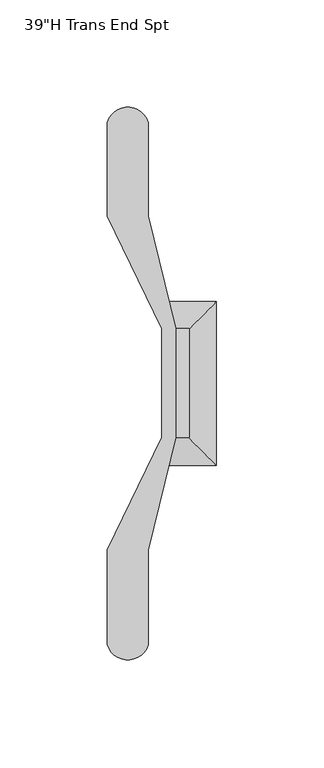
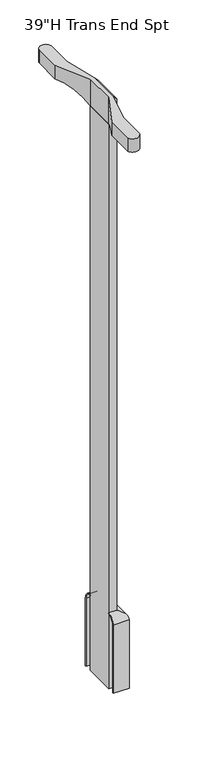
"""IFC4 building model written with IfcOpenShell, lengths in millimetres: furniture geometry."""

from ifc_helpers import new_model, si_unit, frame, origin, place, context, project, spatial, polyline, circle_curve, ellipse_curve, outline, extrude, source, transform, mapped, element, save
from ifc_brep_helpers import plane_surface, cylinder_surface, revolved_surface, advanced_brep


def furniture_0d48e931(model_context):
    return source(origin(), model_context, "Body", "SolidModel", [
        advanced_brep(
        [(1984.8560512, -2410.6387877, 123.825), (1984.8560512, -2410.6387877, 9.525), (1984.8560512, -2412.2262877, 9.525), (1984.8560512, -2412.2262877, 123.825), (1984.8560512, -2423.3387877, 134.9375), (1984.8560512, -2423.3387877, 136.525), (2010.2560512, -2410.6387877, 123.825), (2010.2560512, -2410.6387877, 9.525), (2010.2560512, -2486.8387877, 9.525), (1984.8560512, -2486.8387877, 9.525), (1984.8560512, -2485.2512877, 9.525), (2008.6685512, -2485.2512877, 9.525), (2008.6685512, -2412.2262877, 9.525), (2008.6685512, -2412.2262877, 123.825), (1997.5560512, -2423.3387877, 134.9375), (1997.5560512, -2423.3387877, 136.525), (2010.2560512, -2486.8387877, 123.825), (2008.6685512, -2485.2512877, 123.825), (1997.5560512, -2474.1387877, 134.9375), (1997.5560512, -2474.1387877, 136.525), (1984.8560512, -2486.8387877, 123.825), (1984.8560512, -2474.1387877, 136.525), (1984.8560512, -2474.1387877, 134.9375), (1984.8560512, -2485.2512877, 123.825)],
        [
            (0, 1),
            (1, 2),
            (2, 3),
            (3, 4, circle_curve(frame((1984.8560512, -2423.3387877, 123.825), z_axis=(1.0, 0.0, 0.0), x_axis=(0.0, 1.0, 0.0)), 11.1125)),
            (4, 5),
            (5, 0, circle_curve(frame((1984.8560512, -2423.3387877, 123.825), z_axis=(-1.0, 0.0, 0.0), x_axis=(0.0, 1.0, 0.0)), 12.7)),
            (0, 6),
            (6, 7),
            (7, 1),
            (7, 8),
            (8, 9),
            (9, 10),
            (10, 11),
            (11, 12),
            (12, 2),
            (12, 13),
            (13, 3),
            (13, 14, ellipse_curve(frame((1997.5560512, -2423.3387877, 123.825), z_axis=(0.7071067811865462, -0.7071067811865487, 0.0), x_axis=(0.7071067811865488, 0.7071067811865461, 0.0)), 15.7154482, 11.1125)),
            (14, 4),
            (14, 15),
            (15, 5),
            (15, 6, ellipse_curve(frame((1997.5560512, -2423.3387877, 123.825), z_axis=(-0.7071067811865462, 0.7071067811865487, 0.0), x_axis=(-0.7071067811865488, -0.7071067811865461, 0.0)), 17.9605122, 12.7)),
            (6, 16),
            (16, 8),
            (11, 17),
            (17, 13),
            (17, 18, ellipse_curve(frame((1997.5560512, -2474.1387877, 123.825), z_axis=(-0.7071067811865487, -0.7071067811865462, 0.0), x_axis=(0.7071067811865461, -0.7071067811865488, 0.0)), 15.7154482, 11.1125)),
            (18, 14),
            (18, 19),
            (19, 15),
            (19, 16, ellipse_curve(frame((1997.5560512, -2474.1387877, 123.825), z_axis=(0.7071067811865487, 0.7071067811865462, 0.0), x_axis=(-0.7071067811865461, 0.7071067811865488, 0.0)), 17.9605122, 12.7)),
            (20, 21, circle_curve(frame((1984.8560512, -2474.1387877, 123.825), z_axis=(-1.0, 0.0, 0.0), x_axis=(0.0, -1.0, 0.0)), 12.7)),
            (21, 22),
            (22, 23, circle_curve(frame((1984.8560512, -2474.1387877, 123.825), z_axis=(1.0, 0.0, 0.0), x_axis=(0.0, -1.0, 0.0)), 11.1125)),
            (23, 10),
            (9, 20),
            (16, 20),
            (23, 17),
            (22, 18),
            (21, 19),
        ],
        [
            plane_surface(frame((1984.8560512, -2423.3387877, 136.525), z_axis=(-1.0, 0.0, 0.0), x_axis=(0.0, 0.0, 1.0))),
            plane_surface(frame((1984.8560512, -2410.6387877, 123.825), z_axis=(0.0, 1.0, 0.0), x_axis=(1.0, 0.0, 0.0))),
            plane_surface(frame((1984.8560512, -2410.6387877, 9.525), z_axis=(0.0, 0.0, -1.0), x_axis=(1.0, 0.0, 0.0))),
            plane_surface(frame((1984.8560512, -2412.2262877, 9.525), z_axis=(0.0, -1.0, 0.0), x_axis=(1.0, 0.0, 0.0))),
            revolved_surface(polyline([(2008.6685512, -2412.2262877, 123.825), (1984.8560512, -2412.2262877, 123.825)]), (1984.8560512, -2423.3387877, 123.825), (1.0, 0.0, 0.0)),
            plane_surface(frame((1984.8560512, -2423.3387877, 134.9375), z_axis=(0.0, -1.0, 0.0), x_axis=(1.0, 0.0, 0.0))),
            cylinder_surface(frame((1984.8560512, -2423.3387877, 123.825), z_axis=(-1.0, 0.0, 0.0), x_axis=(0.0, 1.0, 0.0)), 12.7),
            plane_surface(frame((2010.2560512, -2410.6387877, 123.825), z_axis=(1.0, 0.0, 0.0), x_axis=(0.0, -1.0, 0.0))),
            plane_surface(frame((2008.6685512, -2412.2262877, 9.525), z_axis=(-1.0, 0.0, 0.0), x_axis=(0.0, -1.0, 0.0))),
            revolved_surface(polyline([(2008.6685512, -2485.2512877, 123.825), (2008.6685512, -2412.2262877, 123.825)]), (1997.5560512, -2423.3387877, 123.825), (0.0, -1.0, 0.0)),
            plane_surface(frame((1997.5560512, -2423.3387877, 134.9375), z_axis=(-1.0, 0.0, 0.0), x_axis=(0.0, -1.0, 0.0))),
            cylinder_surface(frame((1997.5560512, -2423.3387877, 123.825), z_axis=(0.0, 1.0, 0.0), x_axis=(1.0, 0.0, 0.0)), 12.7),
            plane_surface(frame((1984.8560512, -2474.1387877, 136.525), z_axis=(-1.0, 0.0, 0.0), x_axis=(0.0, 0.0, 1.0))),
            plane_surface(frame((2010.2560512, -2486.8387877, 123.825), z_axis=(0.0, -1.0, 0.0), x_axis=(-1.0, 0.0, 0.0))),
            plane_surface(frame((2008.6685512, -2485.2512877, 9.525), z_axis=(0.0, 1.0, 0.0), x_axis=(-1.0, 0.0, 0.0))),
            revolved_surface(polyline([(1984.8560512, -2485.2512877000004, 123.825), (2008.6685512, -2485.2512877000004, 123.825)]), (1997.5560512, -2474.1387877, 123.825), (-1.0, 0.0, 0.0)),
            plane_surface(frame((1997.5560512, -2474.1387877, 134.9375), z_axis=(0.0, 1.0, 0.0), x_axis=(-1.0, 0.0, 0.0))),
            cylinder_surface(frame((1997.5560512, -2474.1387877, 123.825), z_axis=(1.0, 0.0, 0.0), x_axis=(0.0, -1.0, 0.0)), 12.7),
        ],
        [
            (0, [[1, 2, 3, 4, 5, 6]]),
            (1, [[-1, 7, 8, 9]]),
            (2, [[-2, -9, 10, 11, 12, 13, 14, 15]]),
            (3, [[-3, -15, 16, 17]]),
            (4, [[-4, -17, 18, 19]]),
            (5, [[-5, -19, 20, 21]]),
            (6, [[-6, -21, 22, -7]]),
            (7, [[-8, 23, 24, -10]]),
            (8, [[-16, -14, 25, 26]]),
            (9, [[-18, -26, 27, 28]]),
            (10, [[-20, -28, 29, 30]]),
            (11, [[-22, -30, 31, -23]]),
            (12, [[32, 33, 34, 35, -12, 36]]),
            (13, [[-24, 37, -36, -11]]),
            (14, [[-25, -13, -35, 38]]),
            (15, [[-27, -38, -34, 39]]),
            (16, [[-29, -39, -33, 40]]),
            (17, [[-31, -40, -32, -37]]),
        ],
    ),
        extrude(outline(polyline([(1984.8560512, -2474.1387877), (1984.8560512, -2423.3387877), (1997.5560512, -2423.3387877), (1997.5560512, -2474.1387877), (1984.8560512, -2474.1387877)])), frame((0.0, 0.0, 9.525), z_axis=(0.0, 0.0, 1.0), x_axis=(1.0, 0.0, 0.0)), (0.0, 0.0, 1.0), 946.15),
        advanced_brep(
        [(1959.4560512, -2526.5262877, 1000.125), (1959.4560512, -2570.7955255, 1000.125), (1978.5060512, -2570.7955255, 1000.125), (1978.5060512, -2526.5262877, 1000.125), (1991.2060512, -2474.1387877, 1000.125), (1991.2060512, -2423.3387877, 1000.125), (1978.5060512, -2370.9512877, 1000.125), (1978.5060512, -2327.2522862, 1000.125), (1959.4560512, -2327.2522862, 1000.125), (1959.4560512, -2370.9512877, 1000.125), (1984.8560512, -2423.3387877, 1000.125), (1984.8560512, -2474.1387877, 1000.125), (1984.8560512, -2474.1387877, 955.675), (1984.8560512, -2423.3387877, 955.675), (1991.2060512, -2423.3387877, 955.675), (1997.5560512, -2423.3387877, 955.675), (1997.5560512, -2474.1387877, 955.675), (1991.2060512, -2474.1387877, 955.675), (1959.4560512, -2526.5262877, 977.9), (1959.4560512, -2570.7955255, 977.9), (1978.5060512, -2570.7955255, 977.9), (1978.5060512, -2526.5262877, 977.9), (1997.5560512, -2474.1387877, 993.775), (1997.5560512, -2423.3387877, 993.775), (1978.5060512, -2370.9512877, 977.9), (1978.5060512, -2327.2522862, 977.9), (1959.4560512, -2327.2522862, 977.9), (1959.4560512, -2370.9512877, 977.9)],
        [
            (0, 1),
            (1, 2, circle_curve(frame((1968.9810512, -2567.7109066, 1000.125), z_axis=(0.0, 0.0, 1.0), x_axis=(0.0, -1.0, 0.0)), 10.0120177)),
            (2, 3),
            (3, 4),
            (4, 5),
            (5, 6),
            (6, 7),
            (7, 8, circle_curve(frame((1968.9810512, -2330.0517869, 1000.125), z_axis=(0.0, 0.0, 1.0), x_axis=(0.0, -1.0, 0.0)), 9.9278814)),
            (8, 9),
            (9, 10),
            (10, 11),
            (11, 0),
            (12, 13),
            (13, 14),
            (14, 15),
            (15, 16),
            (16, 17),
            (17, 12),
            (0, 18),
            (18, 19),
            (19, 1),
            (19, 20, circle_curve(frame((1968.9810512, -2567.7109066, 977.9), z_axis=(0.0, 0.0, 1.0), x_axis=(0.0, -1.0, 0.0)), 10.0120177)),
            (20, 2),
            (20, 21),
            (21, 3),
            (21, 17, ellipse_curve(frame((1978.5060512, -2526.5262877, 905.0450893), z_axis=(-0.9718501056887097, 0.23560002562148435, 0.0), x_axis=(-0.23560002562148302, -0.9718501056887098, 0.0)), 74.9651724, 72.8549107)),
            (17, 4),
            (16, 22),
            (22, 4),
            (15, 23),
            (23, 22),
            (14, 5),
            (5, 23),
            (14, 24, ellipse_curve(frame((1978.5060512, -2370.9512877, 905.0450893), z_axis=(-0.9718501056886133, -0.2356000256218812, 0.0), x_axis=(-0.2356000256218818, 0.9718501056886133, 0.0)), 74.9651724, 72.8549107)),
            (24, 6),
            (24, 25),
            (25, 7),
            (25, 26, circle_curve(frame((1968.9810512, -2330.0517869, 977.9), z_axis=(0.0, 0.0, 1.0), x_axis=(0.0, -1.0, 0.0)), 9.9278814)),
            (26, 8),
            (26, 27),
            (27, 9),
            (27, 13, ellipse_curve(frame((1959.4560512, -2370.9512877, 905.0450893), z_axis=(0.8998141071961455, 0.4362735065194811, 0.0), x_axis=(-0.4362735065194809, 0.8998141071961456, 0.0)), 80.9666243, 72.8549107)),
            (13, 10),
            (12, 11),
            (12, 18, ellipse_curve(frame((1959.4560512, -2526.5262877, 905.0450893), z_axis=(0.8998141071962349, -0.4362735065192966, 0.0), x_axis=(-0.43627350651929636, -0.8998141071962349, 0.0)), 80.9666243, 72.8549107)),
            (21, 18),
            (27, 24),
        ],
        [
            plane_surface(frame((1959.4560512, -2570.7955255, 1000.125), z_axis=(0.0, 0.0, 1.0), x_axis=(0.0, -1.0, 0.0))),
            plane_surface(frame((1959.4560512, -2570.7955255, 955.675), z_axis=(0.0, 0.0, -1.0), x_axis=(0.0, 1.0, 0.0))),
            plane_surface(frame((1959.4560512, -2526.5262877, 1000.125), z_axis=(-1.0, 0.0, 0.0), x_axis=(0.0, 0.0, -1.0))),
            cylinder_surface(frame((1968.9810512, -2567.7109066, 955.675), z_axis=(0.0, 0.0, 1.0), x_axis=(0.0, -1.0, 0.0)), 10.0120177),
            plane_surface(frame((1978.5060512, -2570.7955255, 1000.125), z_axis=(1.0, 0.0, 0.0), x_axis=(0.0, 0.0, -1.0))),
            plane_surface(frame((1978.5060512, -2526.5262877, 1000.125), z_axis=(0.9718501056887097, -0.23560002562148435, 0.0), x_axis=(0.0, 0.0, -1.0))),
            plane_surface(frame((1991.2060512, -2474.1387877, 1000.125), z_axis=(0.0, -1.0, 0.0), x_axis=(0.0, 0.0, -1.0))),
            plane_surface(frame((1997.5560512, -2474.1387877, 1000.125), z_axis=(1.0, 0.0, 0.0), x_axis=(0.0, 0.0, -1.0))),
            plane_surface(frame((1997.5560512, -2423.3387877, 1000.125), z_axis=(0.0, 1.0, 0.0), x_axis=(0.0, 0.0, -1.0))),
            plane_surface(frame((1991.2060512, -2423.3387877, 1000.125), z_axis=(0.9718501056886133, 0.2356000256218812, 0.0), x_axis=(0.0, 0.0, -1.0))),
            plane_surface(frame((1978.5060512, -2370.9512877, 1000.125), z_axis=(1.0, 0.0, 0.0), x_axis=(0.0, 0.0, -1.0))),
            cylinder_surface(frame((1968.9810512, -2330.0517869, 955.675), z_axis=(0.0, 0.0, 1.0), x_axis=(0.0, -1.0, 0.0)), 9.9278814),
            plane_surface(frame((1959.4560512, -2327.2522862, 1000.125), z_axis=(-1.0, 0.0, 0.0), x_axis=(0.0, 0.0, -1.0))),
            plane_surface(frame((1959.4560512, -2370.9512877, 1000.125), z_axis=(-0.8998141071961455, -0.4362735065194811, 0.0), x_axis=(0.0, 0.0, -1.0))),
            plane_surface(frame((1984.8560512, -2423.3387877, 1000.125), z_axis=(-1.0, 0.0, 0.0), x_axis=(0.0, 0.0, -1.0))),
            plane_surface(frame((1984.8560512, -2474.1387877, 1000.125), z_axis=(-0.8998141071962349, 0.4362735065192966, 0.0), x_axis=(0.0, 0.0, -1.0))),
            revolved_surface(polyline([(1924.1324581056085, -2599.3811984, 905.0450893), (1996.1678477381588, -2599.3811984, 905.0450893)]), (2010.2560512, -2526.5262877, 905.0450893), (-1.0, 0.0, 0.0)),
            plane_surface(frame((1959.4560512, -2615.4262877, 977.9), z_axis=(0.0, 0.0, -1.0), x_axis=(1.0, 0.0, 0.0))),
            revolved_surface(polyline([(1924.1324581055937, -2443.8061984, 905.0450893), (1996.1678477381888, -2443.8061984, 905.0450893)]), (2010.2560512, -2370.9512877, 905.0450893), (-1.0, 0.0, 0.0)),
            plane_surface(frame((1959.4560512, -2370.9512877, 977.9), z_axis=(0.0, 1.6565796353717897e-12, -1.0), x_axis=(1.0, 0.0, 0.0))),
            plane_surface(frame((1997.5560512, -2423.3387877, 993.775), z_axis=(0.7071067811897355, 0.0, 0.7071067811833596), x_axis=(0.0, -1.0, 0.0))),
        ],
        [
            (0, [[1, 2, 3, 4, 5, 6, 7, 8, 9, 10, 11, 12]]),
            (1, [[13, 14, 15, 16, 17, 18]]),
            (2, [[-1, 19, 20, 21]]),
            (3, [[-2, -21, 22, 23]]),
            (4, [[-3, -23, 24, 25]]),
            (5, [[-4, -25, 26, 27]]),
            (6, [[-17, 28, 29, -27]]),
            (7, [[-16, 30, 31, -28]]),
            (8, [[-15, 32, 33, -30]]),
            (9, [[-6, -32, 34, 35]]),
            (10, [[-7, -35, 36, 37]]),
            (11, [[-8, -37, 38, 39]]),
            (12, [[-9, -39, 40, 41]]),
            (13, [[-10, -41, 42, 43]]),
            (14, [[-11, -43, -13, 44]]),
            (15, [[-12, -44, 45, -19]]),
            (16, [[46, -45, -18, -26]]),
            (17, [[-46, -24, -22, -20]]),
            (18, [[47, -34, -14, -42]]),
            (19, [[-47, -40, -38, -36]]),
            (20, [[-5, -29, -31, -33]]),
        ],
    ),
    ])


if __name__ == "__main__":
    model = new_model("IFC4")
    model_context = context("Model", 3, world=origin())
    ifc_project = project(units=[si_unit("LENGTHUNIT", "METRE", prefix="MILLI")], contexts=[model_context])
    site = spatial("IfcSite", under=ifc_project)
    building = spatial("IfcBuilding", under=site)
    placement = place(None, origin())
    furniture_shape = furniture_0d48e931(model_context)
    element("IfcFurniture", 1, ObjectType="HermanMiller_ActionOffice_A1271_FinishedEndStandardBase : 39\"H Trans End Spt", at=placement, inside=building, context=model_context, shape_type="MappedRepresentation", body=[
        mapped(furniture_shape, transform((0.0, 0.0, 0.0), x_axis=(1.0, 0.0, 0.0), y_axis=(0.0, 1.0, 0.0), z_axis=(0.0, 0.0, 1.0))),
    ])
    save(model, "model.ifc")
